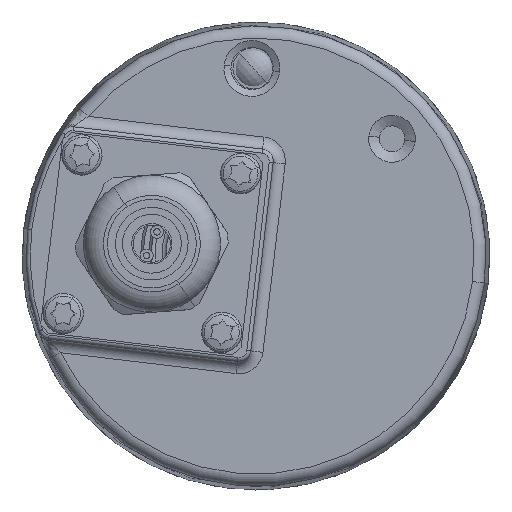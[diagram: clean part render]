
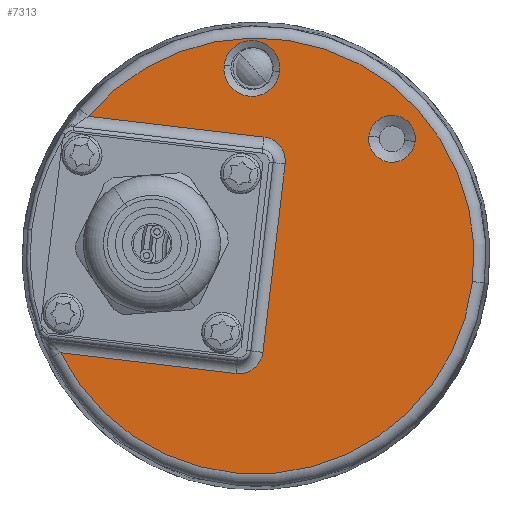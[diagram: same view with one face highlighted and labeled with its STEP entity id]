
A CAD part, left-side view. The second image highlights one B-rep face of the part: STEP entity #7313.
In plain terms, the highlighted planar face has unit normal (-1, 0, 0).
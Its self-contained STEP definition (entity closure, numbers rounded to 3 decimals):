
#57 = DIRECTION ( 'NONE',  ( 0., 0.118, -0.993 ) ) ;
#58 = VECTOR ( 'NONE', #57, 1000. ) ;
#59 = CARTESIAN_POINT ( 'NONE',  ( -34.46, -8.834, -10.82 ) ) ;
#60 = LINE ( 'NONE', #59, #58 ) ;
#87 = CARTESIAN_POINT ( 'NONE',  ( -34.46, -9.01, -9.33 ) ) ;
#2188 = CARTESIAN_POINT ( 'NONE',  ( -34.46, -22.133, 17.468 ) ) ;
#2894 = CARTESIAN_POINT ( 'NONE',  ( -34.46, -34.991, -0.573 ) ) ;
#2895 = DIRECTION ( 'NONE',  ( 0., -0.993, -0.118 ) ) ;
#2896 = DIRECTION ( 'NONE',  ( -1., 0., 0. ) ) ;
#2897 = AXIS2_PLACEMENT_3D ( 'NONE', #2957, #2896, #2895 ) ;
#2898 = CIRCLE ( 'NONE', #2897, 27.022 ) ;
#2957 = CARTESIAN_POINT ( 'NONE',  ( -34.46, -8.157, 2.603 ) ) ;
#3391 = CARTESIAN_POINT ( 'NONE',  ( -34.46, 12.594, 19.912 ) ) ;
#3430 = CARTESIAN_POINT ( 'NONE',  ( -34.46, -25.012, 17.127 ) ) ;
#3444 = DIRECTION ( 'NONE',  ( 0., -0.993, -0.118 ) ) ;
#3445 = DIRECTION ( 'NONE',  ( 1., 0., 0. ) ) ;
#3447 = CIRCLE ( 'NONE', #3462, 2.899 ) ;
#3449 = CARTESIAN_POINT ( 'NONE',  ( -34.46, -27.891, 16.786 ) ) ;
#3462 = AXIS2_PLACEMENT_3D ( 'NONE', #3430, #3445, #3444 ) ;
#3472 = CARTESIAN_POINT ( 'NONE',  ( -34.46, -8.157, 2.603 ) ) ;
#3510 = DIRECTION ( 'NONE',  ( 0., -0.993, -0.118 ) ) ;
#3536 = DIRECTION ( 'NONE',  ( -1., 0., 0. ) ) ;
#3537 = AXIS2_PLACEMENT_3D ( 'NONE', #3472, #3536, #3510 ) ;
#3538 = CIRCLE ( 'NONE', #3537, 27.022 ) ;
#3652 = DIRECTION ( 'NONE',  ( 0., -0.993, -0.118 ) ) ;
#3653 = DIRECTION ( 'NONE',  ( -1., 0., 0. ) ) ;
#3654 = CARTESIAN_POINT ( 'NONE',  ( -34.46, -8.793, 14.36 ) ) ;
#3655 = AXIS2_PLACEMENT_3D ( 'NONE', #3654, #3653, #3652 ) ;
#3656 = CIRCLE ( 'NONE', #3655, 3. ) ;
#3662 = CARTESIAN_POINT ( 'NONE',  ( -34.46, 16.062, -9.383 ) ) ;
#3663 = CARTESIAN_POINT ( 'NONE',  ( -34.46, -5.678, -11.956 ) ) ;
#3664 = DIRECTION ( 'NONE',  ( 0., 0.993, 0.118 ) ) ;
#3671 = VECTOR ( 'NONE', #3664, 1000. ) ;
#3672 = CARTESIAN_POINT ( 'NONE',  ( -34.46, 18.638, -9.079 ) ) ;
#3673 = LINE ( 'NONE', #3672, #3671 ) ;
#3677 = FACE_OUTER_BOUND ( 'NONE', #7314, .T. ) ;
#3684 = DIRECTION ( 'NONE',  ( 0., -0.993, -0.118 ) ) ;
#3685 = DIRECTION ( 'NONE',  ( 1., 0., 0. ) ) ;
#3693 = FACE_BOUND ( 'NONE', #7255, .T. ) ;
#3694 = FACE_BOUND ( 'NONE', #7254, .T. ) ;
#3703 = CARTESIAN_POINT ( 'NONE',  ( -34.46, -8.157, 2.603 ) ) ;
#3704 = PLANE ( 'NONE',  #3712 ) ;
#3712 = AXIS2_PLACEMENT_3D ( 'NONE', #3703, #3685, #3684 ) ;
#3790 = DIRECTION ( 'NONE',  ( 0., -0.993, -0.118 ) ) ;
#3791 = DIRECTION ( 'NONE',  ( 1., 0., 0. ) ) ;
#3792 = CARTESIAN_POINT ( 'NONE',  ( -34.46, -25.012, 17.127 ) ) ;
#3810 = AXIS2_PLACEMENT_3D ( 'NONE', #3792, #3791, #3790 ) ;
#3811 = CIRCLE ( 'NONE', #3810, 2.899 ) ;
#4016 = DIRECTION ( 'NONE',  ( 0., -0.993, -0.118 ) ) ;
#4017 = VECTOR ( 'NONE', #4016, 1000. ) ;
#4018 = CARTESIAN_POINT ( 'NONE',  ( -34.46, -10.635, 17.163 ) ) ;
#4019 = LINE ( 'NONE', #4018, #4017 ) ;
#4021 = CARTESIAN_POINT ( 'NONE',  ( -34.46, -9.145, 17.339 ) ) ;
#4026 = CARTESIAN_POINT ( 'NONE',  ( -34.46, -11.772, 14.007 ) ) ;
#4027 = DIRECTION ( 'NONE',  ( 0., -0.993, -0.118 ) ) ;
#4028 = DIRECTION ( 'NONE',  ( -1., 0., 0. ) ) ;
#4029 = CARTESIAN_POINT ( 'NONE',  ( -34.46, -6.031, -8.977 ) ) ;
#4030 = AXIS2_PLACEMENT_3D ( 'NONE', #4029, #4028, #4027 ) ;
#4031 = CIRCLE ( 'NONE', #4030, 3. ) ;
#4032 = DIRECTION ( 'NONE',  ( 0., -0.993, -0.118 ) ) ;
#4033 = DIRECTION ( 'NONE',  ( 1., 0., 0. ) ) ;
#4034 = CARTESIAN_POINT ( 'NONE',  ( -34.46, -7.649, 25.848 ) ) ;
#4035 = AXIS2_PLACEMENT_3D ( 'NONE', #4034, #4033, #4032 ) ;
#4036 = CIRCLE ( 'NONE', #4035, 3.466 ) ;
#6993 = VERTEX_POINT ( 'NONE', #2188 ) ;
#7029 = EDGE_CURVE ( 'NONE', #7030, #7166, #2898, .T. ) ;
#7030 = VERTEX_POINT ( 'NONE', #2894 ) ;
#7166 = VERTEX_POINT ( 'NONE', #3391 ) ;
#7199 = VERTEX_POINT ( 'NONE', #3449 ) ;
#7201 = EDGE_CURVE ( 'NONE', #6993, #7199, #3447, .T. ) ;
#7247 = EDGE_CURVE ( 'NONE', #7318, #7030, #3538, .T. ) ;
#7248 = ORIENTED_EDGE ( 'NONE', *, *, #7029, .T. ) ;
#7249 = ORIENTED_EDGE ( 'NONE', *, *, #7941, .T. ) ;
#7250 = ORIENTED_EDGE ( 'NONE', *, *, #7389, .T. ) ;
#7254 = EDGE_LOOP ( 'NONE', ( #7399, #7261 ) ) ;
#7255 = EDGE_LOOP ( 'NONE', ( #7249, #7250 ) ) ;
#7261 = ORIENTED_EDGE ( 'NONE', *, *, #7354, .T. ) ;
#7310 = EDGE_CURVE ( 'NONE', #7392, #7394, #3656, .T. ) ;
#7313 = ADVANCED_FACE ( 'NONE', ( #3694, #3693, #3677 ), #3704, .F. ) ;
#7314 = EDGE_LOOP ( 'NONE', ( #7315, #7319, #7248, #7397, #7395, #7390, #7482 ) ) ;
#7315 = ORIENTED_EDGE ( 'NONE', *, *, #7316, .T. ) ;
#7316 = EDGE_CURVE ( 'NONE', #7317, #7318, #3673, .T. ) ;
#7317 = VERTEX_POINT ( 'NONE', #3663 ) ;
#7318 = VERTEX_POINT ( 'NONE', #3662 ) ;
#7319 = ORIENTED_EDGE ( 'NONE', *, *, #7247, .T. ) ;
#7354 = EDGE_CURVE ( 'NONE', #7199, #6993, #3811, .T. ) ;
#7389 = EDGE_CURVE ( 'NONE', #7939, #7942, #4036, .T. ) ;
#7390 = ORIENTED_EDGE ( 'NONE', *, *, #7483, .T. ) ;
#7391 = EDGE_CURVE ( 'NONE', #7317, #7488, #4031, .T. ) ;
#7392 = VERTEX_POINT ( 'NONE', #4026 ) ;
#7394 = VERTEX_POINT ( 'NONE', #4021 ) ;
#7395 = ORIENTED_EDGE ( 'NONE', *, *, #7310, .F. ) ;
#7396 = EDGE_CURVE ( 'NONE', #7166, #7394, #4019, .T. ) ;
#7397 = ORIENTED_EDGE ( 'NONE', *, *, #7396, .T. ) ;
#7399 = ORIENTED_EDGE ( 'NONE', *, *, #7201, .T. ) ;
#7482 = ORIENTED_EDGE ( 'NONE', *, *, #7391, .F. ) ;
#7483 = EDGE_CURVE ( 'NONE', #7392, #7488, #60, .T. ) ;
#7488 = VERTEX_POINT ( 'NONE', #87 ) ;
#7939 = VERTEX_POINT ( 'NONE', #10438 ) ;
#7941 = EDGE_CURVE ( 'NONE', #7942, #7939, #10494, .T. ) ;
#7942 = VERTEX_POINT ( 'NONE', #10495 ) ;
#10438 = CARTESIAN_POINT ( 'NONE',  ( -34.46, -11.091, 25.44 ) ) ;
#10450 = DIRECTION ( 'NONE',  ( 0., -0.993, -0.118 ) ) ;
#10451 = DIRECTION ( 'NONE',  ( 1., 0., 0. ) ) ;
#10492 = CARTESIAN_POINT ( 'NONE',  ( -34.46, -7.649, 25.848 ) ) ;
#10493 = AXIS2_PLACEMENT_3D ( 'NONE', #10492, #10451, #10450 ) ;
#10494 = CIRCLE ( 'NONE', #10493, 3.466 ) ;
#10495 = CARTESIAN_POINT ( 'NONE',  ( -34.46, -4.207, 26.255 ) ) ;
